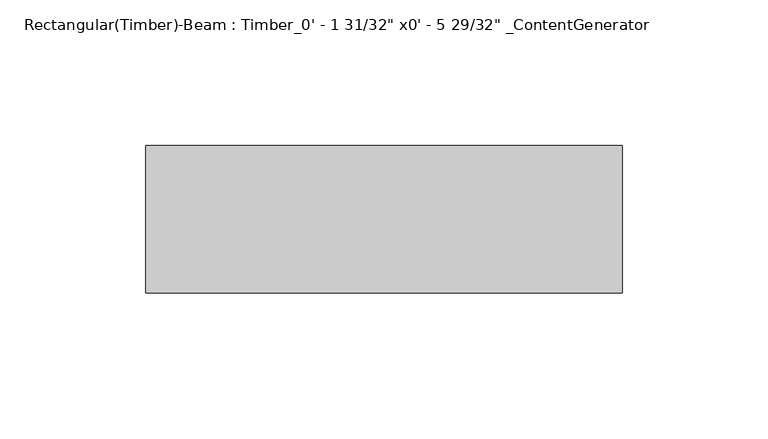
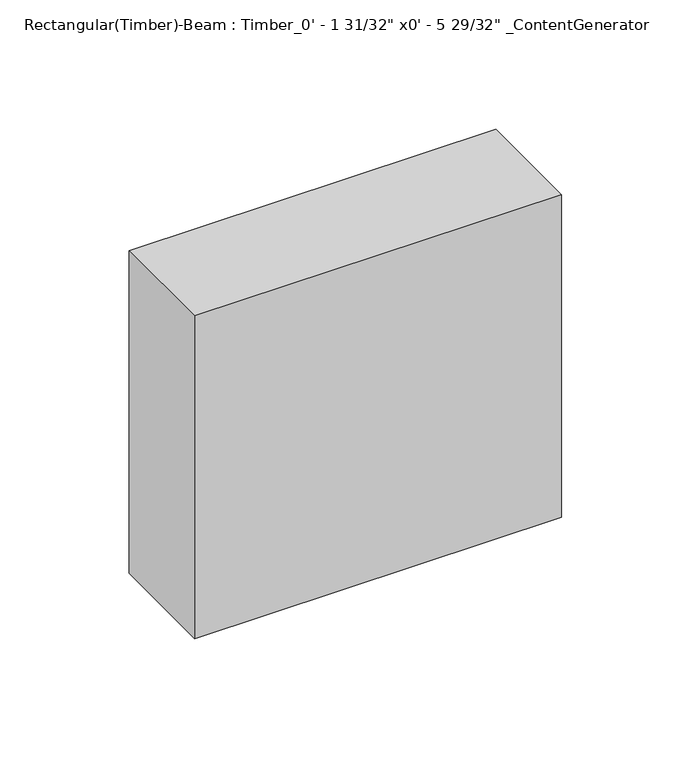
"""IFC4 building model written with IfcOpenShell, lengths in millimetres: beam geometry."""

from ifc_helpers import new_model, si_unit, frame, origin, place, context, project, spatial, polyline, outline, extrude, source, transform, mapped, element, save


def beam_623489ec(model_context):
    return source(origin(), model_context, "Body", "SweptSolid", [
        extrude(outline(polyline([(81.9175, 25.4), (81.9175, -25.4), (-81.9175, -25.4), (-81.9175, 25.4), (81.9175, 25.4)])), frame((0.0, 0.0, -76.2), z_axis=(0.0, 0.0, 1.0), x_axis=(1.0, 0.0, 0.0)), (0.0, 0.0, 1.0), 152.4),
    ])


if __name__ == "__main__":
    model = new_model("IFC4")
    model_context = context("Model", 3, world=origin())
    ifc_project = project(units=[si_unit("LENGTHUNIT", "METRE", prefix="MILLI")], contexts=[model_context])
    site = spatial("IfcSite", under=ifc_project)
    building = spatial("IfcBuilding", under=site)
    placement = place(None, origin())
    beam_shape = beam_623489ec(model_context)
    element("IfcBeam", 1, ObjectType="Rectangular(Timber)-Beam : Timber_0' - 1 31/32\" x0' - 5 29/32\" _ContentGenerator", at=placement, inside=building, context=model_context, shape_type="MappedRepresentation", body=[
        mapped(beam_shape, transform((0.0, 0.0, 0.0), x_axis=(1.0, 0.0, 0.0), y_axis=(0.0, 1.0, 0.0), z_axis=(0.0, 0.0, 1.0))),
    ])
    save(model, "model.ifc")
